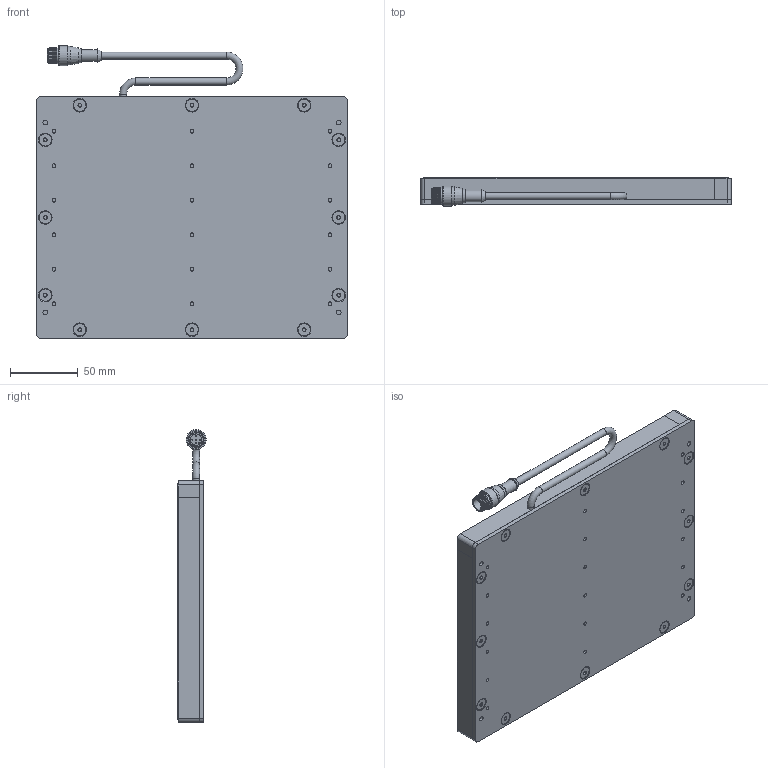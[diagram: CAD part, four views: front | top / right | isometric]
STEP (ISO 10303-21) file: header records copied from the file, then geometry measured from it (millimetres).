
FILE_DESCRIPTION (( 'STEP AP214' ), '1' );
FILE_NAME ('SBL68-XXX-WDC.STEP', '2026-04-17T19:23:54', ( '' ), ( '' ), 'SwSTEP 2.0', 'SolidWorks 2025', '' );
FILE_SCHEMA (( 'AUTOMOTIVE_DESIGN' ));
Length unit declared in the file: inch
Products named in the file (11): Hex Standoff .375 x 8-32; SBL3 to 18in rail_06in No CG; SBL3 to 18in rail_08in No CG; SC Pigtail Complete 18_5pin; SBL68-XXX-WDC; 8-32 x 0.375 FHCS (92210A192)_92210A192; MC Pigtail 24; WD-SBLYYXX_6x8; BackPlate BLYYXX_0608; SBL3 to 18in rail_08in rail; M12 Connector 4,5 and 8 pin_RS4.5T
Assembly tree (33 placements, depth 3):
  SBL68-XXX-WDC
    BackPlate BLYYXX_0608
    SBL3 to 18in rail_08in rail
    SBL3 to 18in rail_08in No CG
    SBL3 to 18in rail_06in No CG  x2
    SC Pigtail Complete 18_5pin
      MC Pigtail 24
      M12 Connector 4,5 and 8 pin_RS4.5T
    WD-SBLYYXX_6x8
    Hex Standoff .375 x 8-32  x12
    8-32 x 0.375 FHCS (92210A192)_92210A192  x12
Bounding box: 228.6 x 20.74 x 215.33 mm (x, y, z)
Volume: 376126.1 mm3; surface area: 228569.2 mm2
Topology: 32 solids, 32 shells, 848 faces, 1966 edges, 1207 vertices
Faces by surface type: plane 341, cylinder 242, cone 199, bspline 36, torus 25, sphere 5
Full cylindrical faces by diameter (mm): 0.762 x5, 2.705 x18, 3.454 x16, 4.496 x24, 5.207 x3, 6.604 x8, 6.858 x12, 8.382 x1, 8.636 x1, 9.119 x12, 10.16 x1, 10.541 x1, 11.938 x1, 13.716 x2, 14.732 x1
Entity records: 14283 total; most frequent: CARTESIAN_POINT 3833, DIRECTION 1971, ORIENTED_EDGE 1578, AXIS2_PLACEMENT_3D 810, EDGE_CURVE 789, EDGE_LOOP 619, VERTEX_POINT 584, FACE_OUTER_BOUND 459
